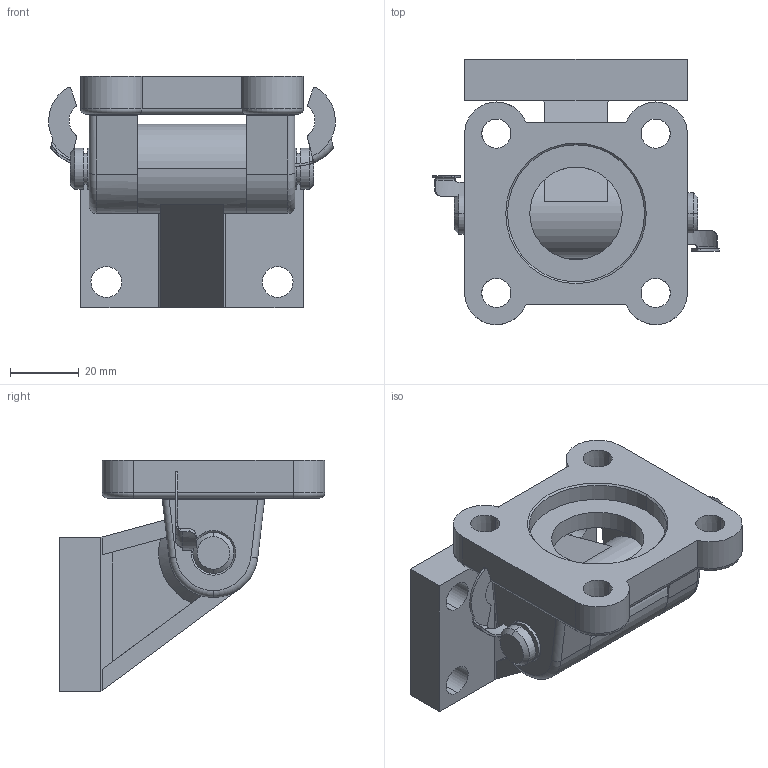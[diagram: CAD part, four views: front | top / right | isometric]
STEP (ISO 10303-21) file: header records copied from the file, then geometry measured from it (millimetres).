
FILE_DESCRIPTION (( 'STEP AP214' ), '1' );
FILE_NAME ('50_EYB.STEP', '2020-12-04T18:40:59', ( '' ), ( '' ), 'SwSTEP 2.0', 'SolidWorks 2021', '' );
FILE_SCHEMA (( 'AUTOMOTIVE_DESIGN' ));
Length unit declared in the file: millimetre
Products named in the file (6): 50  KL_PS.STEP; _AP 50 YER BA_. (CFM).STEP; pny-50-EYB-SFWCFM.STEP; 50  EB  P_M__Varsay_lan.STEP; 50_EYB; 50  SWIVEL  FLANGE.STEP
Assembly tree (6 placements, depth 3):
  50_EYB
    pny-50-EYB-SFWCFM.STEP
      _AP 50 YER BA_. (CFM).STEP
      50  SWIVEL  FLANGE.STEP
      50  KL_PS.STEP  x2
      50  EB  P_M__Varsay_lan.STEP
Bounding box: 83.68 x 77.5 x 67.5 mm (x, y, z)
Volume: 113572.6 mm3; surface area: 36076.6 mm2
Topology: 5 solids, 5 shells, 201 faces, 501 edges, 317 vertices
Faces by surface type: cylinder 85, plane 76, cone 21, torus 15, bspline 4
Entity records: 5427 total; most frequent: CARTESIAN_POINT 1207, DIRECTION 875, ORIENTED_EDGE 810, EDGE_CURVE 405, AXIS2_PLACEMENT_3D 339, VERTEX_POINT 255, VECTOR 197, LINE 197
